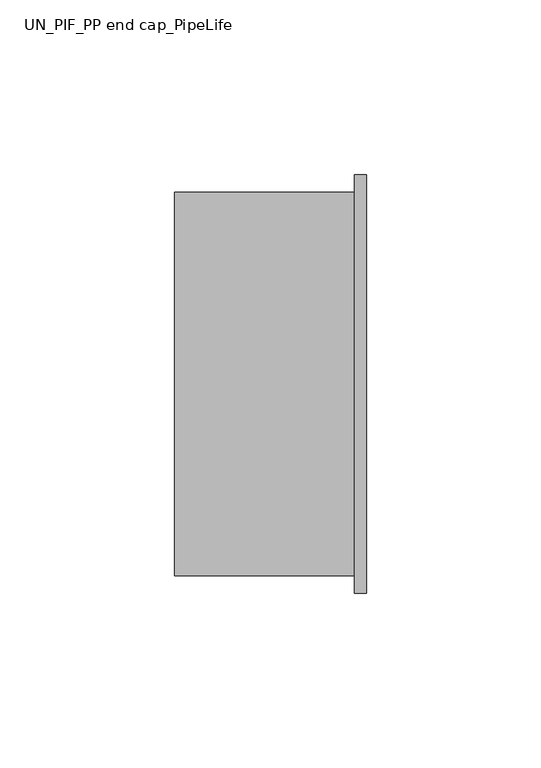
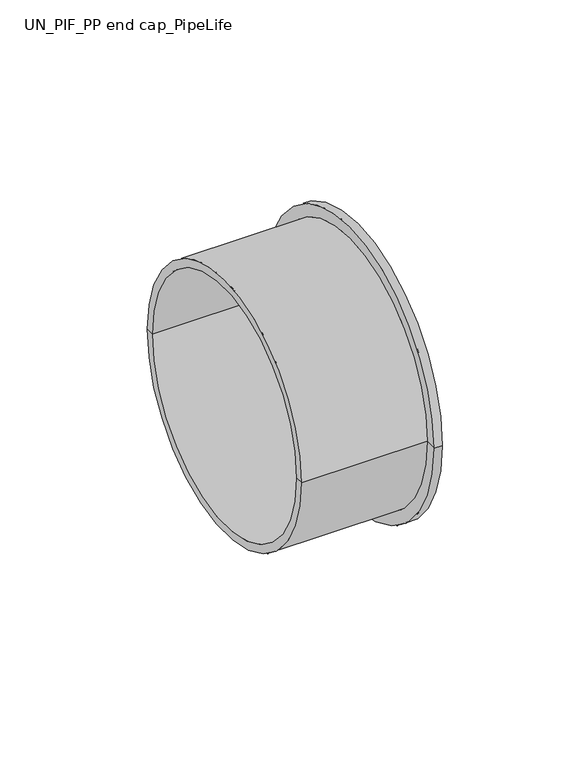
"""IFC4 building model written with IfcOpenShell, lengths in millimetres: pipe fitting geometry, UN_PIF_PP end cap_PipeLife : Black, var. DN/OD (max. ø125)."""

from ifc_helpers import new_model, si_unit, frame, origin, place, context, project, spatial, polyline, circle_curve, source, transform, mapped, element, save
from ifc_brep_helpers import plane_surface, cylinder_surface, revolved_surface, advanced_brep


def un_pif_pp_end_cap_pipelife_650975d5(model_context):
    return source(origin(), model_context, "Body", "AdvancedBrep", [
        advanced_brep(
        [(0.0, 0.0, 0.0), (0.0, 51.6, 0.0), (0.0, -51.6, 0.0), (3.4, -60.0, 0.0), (3.4, 60.0, 0.0), (3.4, 0.0, 0.0), (-51.6, -55.0, 0.0), (-51.6, 55.0, 0.0), (0.0, 55.0, 0.0), (0.0, -55.0, 0.0), (-51.6, -51.6, 0.0), (-51.6, 51.6, 0.0), (0.0, -60.0, 0.0), (0.0, 60.0, 0.0)],
        [
            (0, 1),
            (1, 2, circle_curve(frame((0.0, 0.0, 0.0), z_axis=(-1.0, 0.0, 0.0), x_axis=(0.0, 1.0, 0.0)), 51.6)),
            (2, 0),
            (2, 1, circle_curve(frame((0.0, 0.0, 0.0), z_axis=(-1.0, 0.0, 0.0), x_axis=(0.0, 1.0, 0.0)), 51.6)),
            (3, 4, circle_curve(frame((3.4, 0.0, 0.0), z_axis=(1.0, 0.0, 0.0), x_axis=(0.0, 1.0, 0.0)), 60.0)),
            (4, 5),
            (5, 3),
            (4, 3, circle_curve(frame((3.4, 0.0, 0.0), z_axis=(1.0, 0.0, 0.0), x_axis=(0.0, 1.0, 0.0)), 60.0)),
            (6, 7, circle_curve(frame((-51.6, 0.0, 0.0), z_axis=(1.0, 0.0, 0.0), x_axis=(0.0, 1.0, 0.0)), 55.0)),
            (7, 8),
            (8, 9, circle_curve(frame((0.0, 0.0, 0.0), z_axis=(-1.0, 0.0, 0.0), x_axis=(0.0, 1.0, 0.0)), 55.0)),
            (9, 6),
            (7, 6, circle_curve(frame((-51.6, 0.0, 0.0), z_axis=(1.0, 0.0, 0.0), x_axis=(0.0, 1.0, 0.0)), 55.0)),
            (9, 8, circle_curve(frame((0.0, 0.0, 0.0), z_axis=(-1.0, 0.0, 0.0), x_axis=(0.0, 1.0, 0.0)), 55.0)),
            (10, 11, circle_curve(frame((-51.6, 0.0, 0.0), z_axis=(1.0, 0.0, 0.0), x_axis=(0.0, 1.0, 0.0)), 51.6)),
            (11, 7),
            (6, 10),
            (11, 10, circle_curve(frame((-51.6, 0.0, 0.0), z_axis=(1.0, 0.0, 0.0), x_axis=(0.0, 1.0, 0.0)), 51.6)),
            (1, 11),
            (10, 2),
            (12, 13, circle_curve(frame((0.0, 0.0, 0.0), z_axis=(1.0, 0.0, 0.0), x_axis=(0.0, 1.0, 0.0)), 60.0)),
            (13, 4),
            (3, 12),
            (13, 12, circle_curve(frame((0.0, 0.0, 0.0), z_axis=(1.0, 0.0, 0.0), x_axis=(0.0, 1.0, 0.0)), 60.0)),
            (8, 13),
            (12, 9),
        ],
        [
            plane_surface(frame((0.0, 0.0, 0.0), z_axis=(-1.0, 0.0, 0.0), x_axis=(0.0, 1.0, 0.0))),
            plane_surface(frame((3.4, 0.0, 0.0), z_axis=(1.0, 0.0, 0.0), x_axis=(0.0, 1.0, 0.0))),
            cylinder_surface(frame((-15.0, 0.0, 0.0), z_axis=(-1.0, 0.0, 0.0), x_axis=(0.0, 1.0, 0.0)), 55.0),
            plane_surface(frame((-51.6, 0.0, 0.0), z_axis=(-1.0, 0.0, 0.0), x_axis=(0.0, 1.0, 0.0))),
            revolved_surface(polyline([(-51.6, 51.6, 0.0), (0.0, 51.6, 0.0)]), (-15.0, 0.0, 0.0), (-1.0, 0.0, 0.0)),
            cylinder_surface(frame((-15.0, 0.0, 0.0), z_axis=(-1.0, 0.0, 0.0), x_axis=(0.0, 1.0, 0.0)), 60.0),
        ],
        [
            (0, [[1, 2, 3]]),
            (0, [[-3, 4, -1]]),
            (1, [[5, 6, 7]]),
            (1, [[8, -7, -6]]),
            (2, [[9, 10, 11, 12]]),
            (2, [[13, -12, 14, -10]]),
            (3, [[15, 16, -9, 17]]),
            (3, [[18, -17, -13, -16]]),
            (4, [[-2, 19, -15, 20]]),
            (4, [[-4, -20, -18, -19]]),
            (5, [[21, 22, -5, 23]]),
            (5, [[24, -23, -8, -22]]),
            (0, [[-11, 25, -21, 26]]),
            (0, [[-14, -26, -24, -25]]),
        ],
    ),
    ])


if __name__ == "__main__":
    model = new_model("IFC4")
    model_context = context("Model", 3, world=origin())
    ifc_project = project(units=[si_unit("LENGTHUNIT", "METRE", prefix="MILLI")], contexts=[model_context])
    site = spatial("IfcSite", under=ifc_project)
    building = spatial("IfcBuilding", under=site)
    placement = place(None, origin())
    un_pif_pp_end_cap_pipelife_shape = un_pif_pp_end_cap_pipelife_650975d5(model_context)
    element("IfcPipeFitting", 1, ObjectType="UN_PIF_PP end cap_PipeLife : Black, var. DN/OD (max. ø125)", at=placement, inside=building, context=model_context, shape_type="MappedRepresentation", body=[
        mapped(un_pif_pp_end_cap_pipelife_shape, transform((0.0, 0.0, 0.0), x_axis=(1.0, 0.0, 0.0), y_axis=(0.0, 1.0, 0.0), z_axis=(0.0, 0.0, 1.0))),
    ])
    save(model, "model.ifc")
